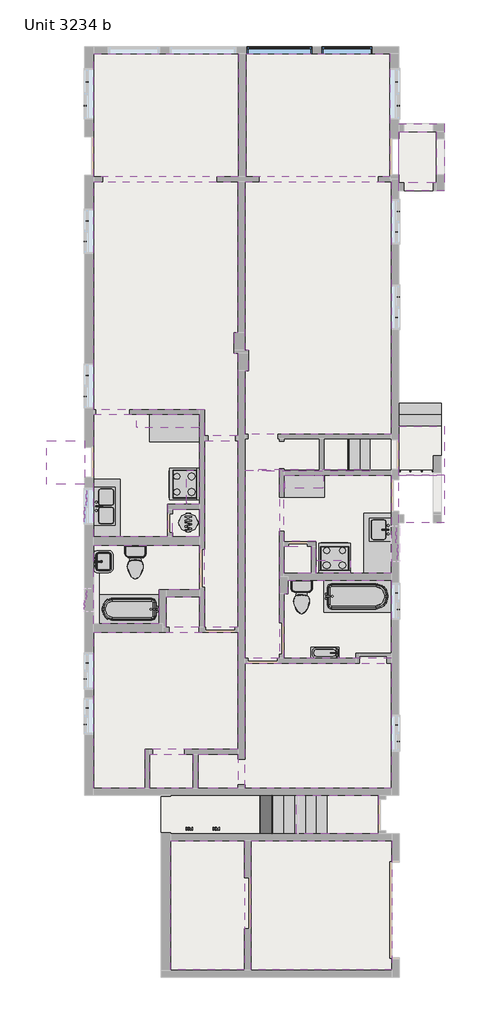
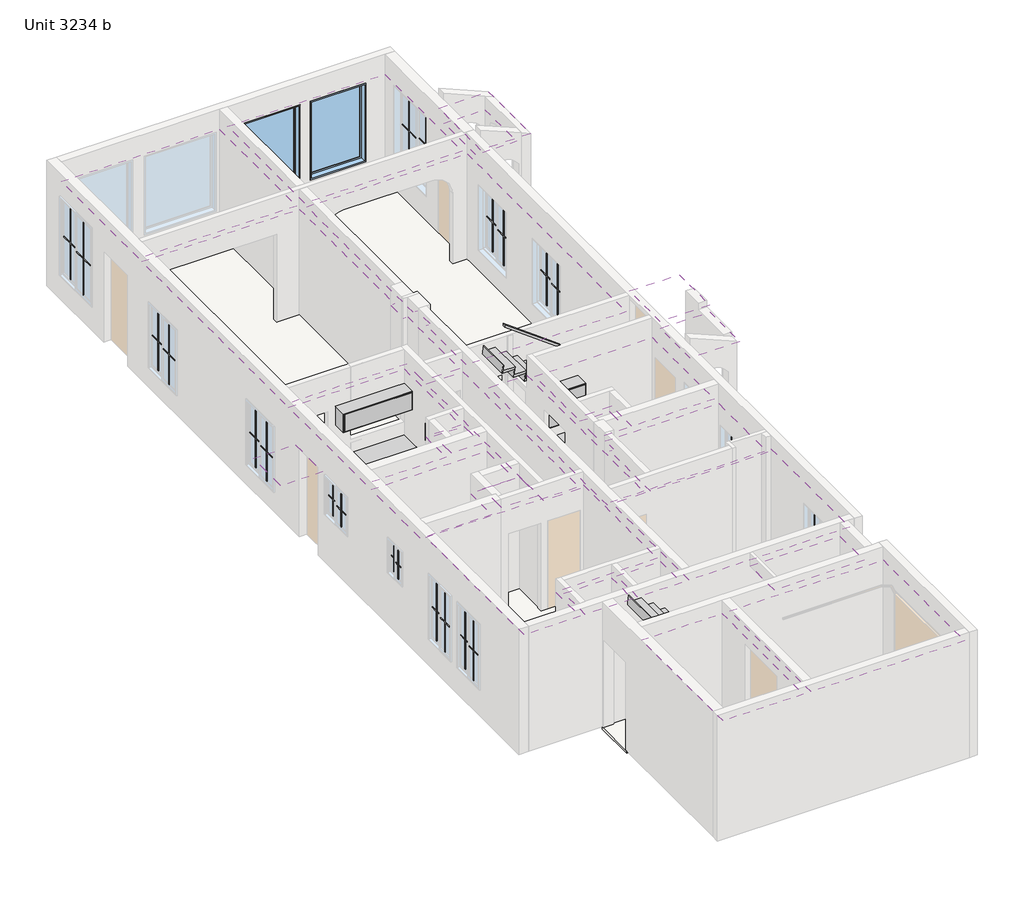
# One storey, part 3 of 3: 36 proxies, 22 coverings, 8 flow terminals, 5 slabs, 4 furniture elements, 4 roofs, 3 stair flights, 2 railings, 2 windows.
"""IFC4 building model written with IfcOpenShell, lengths in millimetres."""

from ifc_helpers import new_model, si_unit, frame, origin, place, context, project, spatial, polyline, outline, extrude, transform, mapped, element, save
from components import countertop_rectangle_shape_base_default_1_c94d556d, countertop_rectangle_shape_base_default_1_c7faa787, countertop_rectangle_shape_base_default_1_c270ed30, countertop_rectangle_shape_base_default_1_6301d843, countertop_rectangle_shape_base_default_1_0d4ae95d, hot_water_heater_default_1_dcdfe45b, hydro_meter_default_1_de04d33e, muntin_pattern_2x2_muntin_pattern_2x2_8981647c, muntin_pattern_2x2_muntin_pattern_2x2_eeb7b067, muntin_pattern_2x2_muntin_pattern_2x2_c44db0e3, muntin_pattern_2x2_muntin_pattern_2x2_644b7d62, muntin_pattern_2x2_muntin_pattern_2x2_b14f4b9c, muntin_pattern_2x2_muntin_pattern_2x2_1228b40f, muntin_pattern_2x2_muntin_pattern_2x2_71baba7b, muntin_pattern_2x2_muntin_pattern_2x2_a1e0f87d, muntin_pattern_2x2_muntin_pattern_2x2_751c9794, stove_default_1_9706c03c, flow_terminal_2d_kitchen_double_sink_default_1_ef919826, flow_terminal_2d_kitchen_single_sink_default_1_ebf750c8, bath_basin_floor_default_1_6d5a7b09, bath_basin_floor_default_1_f7363a9e, bath_bathtub_default_1_c0510252, bath_bathtub_default_1_165bcc3d, toilet_default_1_5cb52bd4, toilet_default_1_183bbd19, furniture_54aba5f5, furniture_4ad73428, furniture_9c7d4743, furniture_249e4f53, railing_900mm_rectangular_stringer_only_1bdd2e87, stair_flight_50mm_tread_25mm_nosing_13mm_riser_cdc1af9a, stair_flight_50mm_tread_25mm_nosing_13mm_riser_e6984ea6, stair_flight_50mm_tread_25mm_nosing_13mm_riser_0e36097c, window_e2ec097b, window_2f6c72c3

model = new_model("IFC4")

# Units and contexts
model_context = context("Model", 3, world=origin())
ifc_project = project(units=[si_unit("LENGTHUNIT", "METRE", prefix="MILLI")], contexts=[model_context])

# Site, building, storey
site = spatial("IfcSite", under=ifc_project)
building = spatial("IfcBuilding", under=site)
storey = spatial("IfcBuildingStorey", under=building, Name="Unit 3234 b", Elevation=0.0)

# Proxies
placement = place(None, origin())
countertop_rectangle_shape_base_default_1_shape = countertop_rectangle_shape_base_default_1_c94d556d(model_context)
element("IfcBuildingElementProxy", 1, Name="Countertop- Rectangle shape base : Default 1", ObjectType="Countertop- Rectangle shape base : Default 1", at=placement, inside=storey, context=model_context, shape_type="MappedRepresentation", body=[
    mapped(countertop_rectangle_shape_base_default_1_shape, transform((-2120.3302402, 3044.1788353, 0.0), x_axis=(1.0, 0.0, 0.0), y_axis=(0.0, 1.0, 0.0), z_axis=(0.0, 0.0, 1.0))),
])
countertop_rectangle_shape_base_default_1_2_shape = countertop_rectangle_shape_base_default_1_c7faa787(model_context)
element("IfcBuildingElementProxy", 2, Name="Countertop- Rectangle shape base : Default 1", ObjectType="Countertop- Rectangle shape base : Default 1", at=placement, inside=storey, context=model_context, shape_type="MappedRepresentation", body=[
    mapped(countertop_rectangle_shape_base_default_1_2_shape, transform((-2612.4552402, 732.7788353, 0.0), x_axis=(0.0, 1.0, 0.0), y_axis=(-1.0, 0.0, 0.0), z_axis=(0.0, 0.0, 1.0))),
])
countertop_rectangle_shape_base_default_1_3_shape = countertop_rectangle_shape_base_default_1_c270ed30(model_context)
element("IfcBuildingElementProxy", 3, Name="Countertop- Rectangle shape base : Default 1", ObjectType="Countertop- Rectangle shape base : Default 1", at=placement, inside=storey, context=model_context, shape_type="MappedRepresentation", body=[
    mapped(countertop_rectangle_shape_base_default_1_3_shape, transform((962.5947598, 1653.5288353, 0.0), x_axis=(1.0, 0.0, 0.0), y_axis=(0.0, 1.0, 0.0), z_axis=(0.0, 0.0, 1.0))),
])
countertop_rectangle_shape_base_default_1_4_shape = countertop_rectangle_shape_base_default_1_6301d843(model_context)
element("IfcBuildingElementProxy", 4, Name="Countertop- Rectangle shape base : Default 1", ObjectType="Countertop- Rectangle shape base : Default 1", at=placement, inside=storey, context=model_context, shape_type="MappedRepresentation", body=[
    mapped(countertop_rectangle_shape_base_default_1_4_shape, transform((1464.2447598, -2343.7961647, 0.0), x_axis=(1.0, 0.0, 0.0), y_axis=(0.0, 1.0, 0.0), z_axis=(0.0, 0.0, 1.0))),
])
countertop_rectangle_shape_base_default_1_5_shape = countertop_rectangle_shape_base_default_1_0d4ae95d(model_context)
element("IfcBuildingElementProxy", 5, Name="Countertop- Rectangle shape base : Default 1", ObjectType="Countertop- Rectangle shape base : Default 1", at=placement, inside=storey, context=model_context, shape_type="MappedRepresentation", body=[
    mapped(countertop_rectangle_shape_base_default_1_5_shape, transform((3880.4197598, -108.5961647, 0.0), x_axis=(0.0, 1.0, 0.0), y_axis=(-1.0, 0.0, 0.0), z_axis=(0.0, 0.0, 1.0))),
])
hot_water_heater_default_1_shape = hot_water_heater_default_1_dcdfe45b(model_context)
element("IfcBuildingElementProxy", 6, Name="Hot Water Heater : Default 1", ObjectType="Hot Water Heater : Default 1", at=placement, inside=storey, context=model_context, shape_type="MappedRepresentation", body=[
    mapped(hot_water_heater_default_1_shape, transform((-1040.8302402, 1155.0538353, 0.0), x_axis=(0.0, 1.0, 0.0), y_axis=(-1.0, 0.0, 0.0), z_axis=(0.0, 0.0, 1.0))),
])
hydro_meter_default_1_shape = hydro_meter_default_1_de04d33e(model_context)
element("IfcBuildingElementProxy", 7, Name="Hydro Meter : Default 1", ObjectType="Hydro Meter : Default 1", at=placement, inside=storey, context=model_context, shape_type="MappedRepresentation", body=[
    mapped(hydro_meter_default_1_shape, transform((-1199.5802402, -6280.7961647, 0.0), x_axis=(1.0, 0.0, 0.0), y_axis=(0.0, 1.0, 0.0), z_axis=(0.0, 0.0, 1.0))),
])
element("IfcBuildingElementProxy", 8, Name="Hydro Meter : Default 1", ObjectType="Hydro Meter : Default 1", at=placement, inside=storey, context=model_context, shape_type="MappedRepresentation", body=[
    mapped(hydro_meter_default_1_shape, transform((-558.2302402, -6280.7961647, 0.0), x_axis=(1.0, 0.0, 0.0), y_axis=(0.0, 1.0, 0.0), z_axis=(0.0, 0.0, 1.0))),
])
muntin_pattern_2x2_muntin_pattern_2x2_shape = muntin_pattern_2x2_muntin_pattern_2x2_8981647c(model_context)
element("IfcBuildingElementProxy", 9, Name="Muntin Pattern_2x2 : Muntin Pattern_2x2", ObjectType="Muntin Pattern_2x2 : Muntin Pattern_2x2", at=placement, inside=storey, context=model_context, shape_type="MappedRepresentation", body=[
    mapped(muntin_pattern_2x2_muntin_pattern_2x2_shape, transform((-3463.3552402, -573.7336647, 1301.75), x_axis=(0.0, 1.0, 0.0), y_axis=(-1.0, 0.0, 0.0), z_axis=(0.0, 0.0, 1.0))),
])
element("IfcBuildingElementProxy", 10, Name="Muntin Pattern_2x2 : Muntin Pattern_2x2", ObjectType="Muntin Pattern_2x2 : Muntin Pattern_2x2", at=placement, inside=storey, context=model_context, shape_type="MappedRepresentation", body=[
    mapped(muntin_pattern_2x2_muntin_pattern_2x2_shape, transform((-3507.8052402, -811.8586647, 1301.75), x_axis=(0.0, 1.0, 0.0), y_axis=(-1.0, 0.0, 0.0), z_axis=(0.0, 0.0, 1.0))),
])
muntin_pattern_2x2_muntin_pattern_2x2_2_shape = muntin_pattern_2x2_muntin_pattern_2x2_eeb7b067(model_context)
element("IfcBuildingElementProxy", 11, Name="Muntin Pattern_2x2 : Muntin Pattern_2x2", ObjectType="Muntin Pattern_2x2 : Muntin Pattern_2x2", at=placement, inside=storey, context=model_context, shape_type="MappedRepresentation", body=[
    mapped(muntin_pattern_2x2_muntin_pattern_2x2_2_shape, transform((-3463.3552402, 1737.6663353, 1200.15), x_axis=(0.0, 1.0, 0.0), y_axis=(-1.0, 0.0, 0.0), z_axis=(0.0, 0.0, 1.0))),
])
element("IfcBuildingElementProxy", 12, Name="Muntin Pattern_2x2 : Muntin Pattern_2x2", ObjectType="Muntin Pattern_2x2 : Muntin Pattern_2x2", at=placement, inside=storey, context=model_context, shape_type="MappedRepresentation", body=[
    mapped(muntin_pattern_2x2_muntin_pattern_2x2_2_shape, transform((-3507.8052402, 1347.1413353, 1200.15), x_axis=(0.0, 1.0, 0.0), y_axis=(-1.0, 0.0, 0.0), z_axis=(0.0, 0.0, 1.0))),
])
muntin_pattern_2x2_muntin_pattern_2x2_3_shape = muntin_pattern_2x2_muntin_pattern_2x2_c44db0e3(model_context)
element("IfcBuildingElementProxy", 13, Name="Muntin Pattern_2x2 : Muntin Pattern_2x2", ObjectType="Muntin Pattern_2x2 : Muntin Pattern_2x2", at=placement, inside=storey, context=model_context, shape_type="MappedRepresentation", body=[
    mapped(muntin_pattern_2x2_muntin_pattern_2x2_3_shape, transform((-3463.3552402, 11681.7663353, 641.35), x_axis=(0.0, 1.0, 0.0), y_axis=(-1.0, 0.0, 0.0), z_axis=(0.0, 0.0, 1.0))),
])
element("IfcBuildingElementProxy", 14, Name="Muntin Pattern_2x2 : Muntin Pattern_2x2", ObjectType="Muntin Pattern_2x2 : Muntin Pattern_2x2", at=placement, inside=storey, context=model_context, shape_type="MappedRepresentation", body=[
    mapped(muntin_pattern_2x2_muntin_pattern_2x2_3_shape, transform((-3507.8052402, 11113.4413353, 641.35), x_axis=(0.0, 1.0, 0.0), y_axis=(-1.0, 0.0, 0.0), z_axis=(0.0, 0.0, 1.0))),
])
muntin_pattern_2x2_muntin_pattern_2x2_4_shape = muntin_pattern_2x2_muntin_pattern_2x2_644b7d62(model_context)
element("IfcBuildingElementProxy", 15, Name="Muntin Pattern_2x2 : Muntin Pattern_2x2", ObjectType="Muntin Pattern_2x2 : Muntin Pattern_2x2", at=placement, inside=storey, context=model_context, shape_type="MappedRepresentation", body=[
    mapped(muntin_pattern_2x2_muntin_pattern_2x2_4_shape, transform((3940.7447598, 11681.7663353, 641.35), x_axis=(0.0, 1.0, 0.0), y_axis=(-1.0, 0.0, 0.0), z_axis=(0.0, 0.0, 1.0))),
])
element("IfcBuildingElementProxy", 16, Name="Muntin Pattern_2x2 : Muntin Pattern_2x2", ObjectType="Muntin Pattern_2x2 : Muntin Pattern_2x2", at=placement, inside=storey, context=model_context, shape_type="MappedRepresentation", body=[
    mapped(muntin_pattern_2x2_muntin_pattern_2x2_4_shape, transform((3985.1947598, 11113.4413353, 641.35), x_axis=(0.0, 1.0, 0.0), y_axis=(-1.0, 0.0, 0.0), z_axis=(0.0, 0.0, 1.0))),
])
muntin_pattern_2x2_muntin_pattern_2x2_5_shape = muntin_pattern_2x2_muntin_pattern_2x2_b14f4b9c(model_context)
element("IfcBuildingElementProxy", 17, Name="Muntin Pattern_2x2 : Muntin Pattern_2x2", ObjectType="Muntin Pattern_2x2 : Muntin Pattern_2x2", at=placement, inside=storey, context=model_context, shape_type="MappedRepresentation", body=[
    mapped(muntin_pattern_2x2_muntin_pattern_2x2_5_shape, transform((3940.7447598, 6052.4913353, 539.75), x_axis=(0.0, -1.0, 0.0), y_axis=(1.0, 0.0, 0.0), z_axis=(0.0, 0.0, 1.0))),
])
element("IfcBuildingElementProxy", 18, Name="Muntin Pattern_2x2 : Muntin Pattern_2x2", ObjectType="Muntin Pattern_2x2 : Muntin Pattern_2x2", at=placement, inside=storey, context=model_context, shape_type="MappedRepresentation", body=[
    mapped(muntin_pattern_2x2_muntin_pattern_2x2_5_shape, transform((3985.1947598, 6544.6163353, 539.75), x_axis=(0.0, -1.0, 0.0), y_axis=(1.0, 0.0, 0.0), z_axis=(0.0, 0.0, 1.0))),
])
element("IfcBuildingElementProxy", 19, Name="Muntin Pattern_2x2 : Muntin Pattern_2x2", ObjectType="Muntin Pattern_2x2 : Muntin Pattern_2x2", at=placement, inside=storey, context=model_context, shape_type="MappedRepresentation", body=[
    mapped(muntin_pattern_2x2_muntin_pattern_2x2_5_shape, transform((3940.7447598, 8097.1913353, 539.75), x_axis=(0.0, -1.0, 0.0), y_axis=(1.0, 0.0, 0.0), z_axis=(0.0, 0.0, 1.0))),
])
element("IfcBuildingElementProxy", 20, Name="Muntin Pattern_2x2 : Muntin Pattern_2x2", ObjectType="Muntin Pattern_2x2 : Muntin Pattern_2x2", at=placement, inside=storey, context=model_context, shape_type="MappedRepresentation", body=[
    mapped(muntin_pattern_2x2_muntin_pattern_2x2_5_shape, transform((3985.1947598, 8589.3163353, 539.75), x_axis=(0.0, -1.0, 0.0), y_axis=(1.0, 0.0, 0.0), z_axis=(0.0, 0.0, 1.0))),
])
element("IfcBuildingElementProxy", 21, Name="Muntin Pattern_2x2 : Muntin Pattern_2x2", ObjectType="Muntin Pattern_2x2 : Muntin Pattern_2x2", at=placement, inside=storey, context=model_context, shape_type="MappedRepresentation", body=[
    mapped(muntin_pattern_2x2_muntin_pattern_2x2_5_shape, transform((-3463.3552402, 8360.7163353, 539.75), x_axis=(0.0, 1.0, 0.0), y_axis=(-1.0, 0.0, 0.0), z_axis=(0.0, 0.0, 1.0))),
])
element("IfcBuildingElementProxy", 22, Name="Muntin Pattern_2x2 : Muntin Pattern_2x2", ObjectType="Muntin Pattern_2x2 : Muntin Pattern_2x2", at=placement, inside=storey, context=model_context, shape_type="MappedRepresentation", body=[
    mapped(muntin_pattern_2x2_muntin_pattern_2x2_5_shape, transform((-3507.8052402, 7868.5913353, 539.75), x_axis=(0.0, 1.0, 0.0), y_axis=(-1.0, 0.0, 0.0), z_axis=(0.0, 0.0, 1.0))),
])
element("IfcBuildingElementProxy", 23, Name="Muntin Pattern_2x2 : Muntin Pattern_2x2", ObjectType="Muntin Pattern_2x2 : Muntin Pattern_2x2", at=placement, inside=storey, context=model_context, shape_type="MappedRepresentation", body=[
    mapped(muntin_pattern_2x2_muntin_pattern_2x2_5_shape, transform((-3463.3552402, 4665.0163353, 539.75), x_axis=(0.0, 1.0, 0.0), y_axis=(-1.0, 0.0, 0.0), z_axis=(0.0, 0.0, 1.0))),
])
element("IfcBuildingElementProxy", 24, Name="Muntin Pattern_2x2 : Muntin Pattern_2x2", ObjectType="Muntin Pattern_2x2 : Muntin Pattern_2x2", at=placement, inside=storey, context=model_context, shape_type="MappedRepresentation", body=[
    mapped(muntin_pattern_2x2_muntin_pattern_2x2_5_shape, transform((-3507.8052402, 4172.8913353, 539.75), x_axis=(0.0, 1.0, 0.0), y_axis=(-1.0, 0.0, 0.0), z_axis=(0.0, 0.0, 1.0))),
])
muntin_pattern_2x2_muntin_pattern_2x2_6_shape = muntin_pattern_2x2_muntin_pattern_2x2_1228b40f(model_context)
element("IfcBuildingElementProxy", 25, Name="Muntin Pattern_2x2 : Muntin Pattern_2x2", ObjectType="Muntin Pattern_2x2 : Muntin Pattern_2x2", at=placement, inside=storey, context=model_context, shape_type="MappedRepresentation", body=[
    mapped(muntin_pattern_2x2_muntin_pattern_2x2_6_shape, transform((-3463.3552402, -2192.9836647, 692.15), x_axis=(0.0, 1.0, 0.0), y_axis=(-1.0, 0.0, 0.0), z_axis=(0.0, 0.0, 1.0))),
])
element("IfcBuildingElementProxy", 26, Name="Muntin Pattern_2x2 : Muntin Pattern_2x2", ObjectType="Muntin Pattern_2x2 : Muntin Pattern_2x2", at=placement, inside=storey, context=model_context, shape_type="MappedRepresentation", body=[
    mapped(muntin_pattern_2x2_muntin_pattern_2x2_6_shape, transform((-3507.8052402, -2583.5086647, 692.15), x_axis=(0.0, 1.0, 0.0), y_axis=(-1.0, 0.0, 0.0), z_axis=(0.0, 0.0, 1.0))),
])
element("IfcBuildingElementProxy", 27, Name="Muntin Pattern_2x2 : Muntin Pattern_2x2", ObjectType="Muntin Pattern_2x2 : Muntin Pattern_2x2", at=placement, inside=storey, context=model_context, shape_type="MappedRepresentation", body=[
    mapped(muntin_pattern_2x2_muntin_pattern_2x2_6_shape, transform((-3463.3552402, -3272.4836647, 692.15), x_axis=(0.0, 1.0, 0.0), y_axis=(-1.0, 0.0, 0.0), z_axis=(0.0, 0.0, 1.0))),
])
element("IfcBuildingElementProxy", 28, Name="Muntin Pattern_2x2 : Muntin Pattern_2x2", ObjectType="Muntin Pattern_2x2 : Muntin Pattern_2x2", at=placement, inside=storey, context=model_context, shape_type="MappedRepresentation", body=[
    mapped(muntin_pattern_2x2_muntin_pattern_2x2_6_shape, transform((-3507.8052402, -3663.0086647, 692.15), x_axis=(0.0, 1.0, 0.0), y_axis=(-1.0, 0.0, 0.0), z_axis=(0.0, 0.0, 1.0))),
])
muntin_pattern_2x2_muntin_pattern_2x2_7_shape = muntin_pattern_2x2_muntin_pattern_2x2_71baba7b(model_context)
element("IfcBuildingElementProxy", 29, Name="Muntin Pattern_2x2 : Muntin Pattern_2x2", ObjectType="Muntin Pattern_2x2 : Muntin Pattern_2x2", at=placement, inside=storey, context=model_context, shape_type="MappedRepresentation", body=[
    mapped(muntin_pattern_2x2_muntin_pattern_2x2_7_shape, transform((3940.7447598, 842.3163353, 1301.75), x_axis=(0.0, 1.0, 0.0), y_axis=(-1.0, 0.0, 0.0), z_axis=(0.0, 0.0, 1.0))),
])
element("IfcBuildingElementProxy", 30, Name="Muntin Pattern_2x2 : Muntin Pattern_2x2", ObjectType="Muntin Pattern_2x2 : Muntin Pattern_2x2", at=placement, inside=storey, context=model_context, shape_type="MappedRepresentation", body=[
    mapped(muntin_pattern_2x2_muntin_pattern_2x2_7_shape, transform((3985.1947598, 451.7913353, 1301.75), x_axis=(0.0, 1.0, 0.0), y_axis=(-1.0, 0.0, 0.0), z_axis=(0.0, 0.0, 1.0))),
])
muntin_pattern_2x2_muntin_pattern_2x2_8_shape = muntin_pattern_2x2_muntin_pattern_2x2_a1e0f87d(model_context)
element("IfcBuildingElementProxy", 31, Name="Muntin Pattern_2x2 : Muntin Pattern_2x2", ObjectType="Muntin Pattern_2x2 : Muntin Pattern_2x2", at=placement, inside=storey, context=model_context, shape_type="MappedRepresentation", body=[
    mapped(muntin_pattern_2x2_muntin_pattern_2x2_8_shape, transform((3940.7447598, -529.2836647, 996.95), x_axis=(0.0, 1.0, 0.0), y_axis=(-1.0, 0.0, 0.0), z_axis=(0.0, 0.0, 1.0))),
])
element("IfcBuildingElementProxy", 32, Name="Muntin Pattern_2x2 : Muntin Pattern_2x2", ObjectType="Muntin Pattern_2x2 : Muntin Pattern_2x2", at=placement, inside=storey, context=model_context, shape_type="MappedRepresentation", body=[
    mapped(muntin_pattern_2x2_muntin_pattern_2x2_8_shape, transform((3985.1947598, -919.8086647, 996.95), x_axis=(0.0, 1.0, 0.0), y_axis=(-1.0, 0.0, 0.0), z_axis=(0.0, 0.0, 1.0))),
])
muntin_pattern_2x2_muntin_pattern_2x2_9_shape = muntin_pattern_2x2_muntin_pattern_2x2_751c9794(model_context)
element("IfcBuildingElementProxy", 33, Name="Muntin Pattern_2x2 : Muntin Pattern_2x2", ObjectType="Muntin Pattern_2x2 : Muntin Pattern_2x2", at=placement, inside=storey, context=model_context, shape_type="MappedRepresentation", body=[
    mapped(muntin_pattern_2x2_muntin_pattern_2x2_9_shape, transform((3940.7447598, -3678.8836647, 692.15), x_axis=(0.0, 1.0, 0.0), y_axis=(-1.0, 0.0, 0.0), z_axis=(0.0, 0.0, 1.0))),
])
element("IfcBuildingElementProxy", 34, Name="Muntin Pattern_2x2 : Muntin Pattern_2x2", ObjectType="Muntin Pattern_2x2 : Muntin Pattern_2x2", at=placement, inside=storey, context=model_context, shape_type="MappedRepresentation", body=[
    mapped(muntin_pattern_2x2_muntin_pattern_2x2_9_shape, transform((3985.1947598, -4069.4086647, 692.15), x_axis=(0.0, 1.0, 0.0), y_axis=(-1.0, 0.0, 0.0), z_axis=(0.0, 0.0, 1.0))),
])
stove_default_1_shape = stove_default_1_9706c03c(model_context)
element("IfcBuildingElementProxy", 35, Name="Stove : Default 1", ObjectType="Stove : Default 1", at=placement, inside=storey, context=model_context, shape_type="MappedRepresentation", body=[
    mapped(stove_default_1_shape, transform((-787.7802402, 2074.3038353, 0.0), x_axis=(0.0, -1.0, 0.0), y_axis=(1.0, 0.0, 0.0), z_axis=(0.0, 0.0, 1.0))),
])
element("IfcBuildingElementProxy", 36, Name="Stove : Default 1", ObjectType="Stove : Default 1", at=placement, inside=storey, context=model_context, shape_type="MappedRepresentation", body=[
    mapped(stove_default_1_shape, transform((2457.1697598, -37.8461647, 0.0), x_axis=(-1.0, 0.0, 0.0), y_axis=(0.0, -1.0, 0.0), z_axis=(0.0, 0.0, 1.0))),
])

# Coverings
element("IfcCovering", 37, ObjectType="1/2\" Ceiling", at=placement, inside=storey, context=model_context, shape_type="SweptSolid", body=[
    extrude(outline(polyline([(159.3197598, 12350.1038353), (159.3197598, 9416.4038353), (-3301.4302402, 9416.4038353), (-3301.4302402, 12350.1038353), (159.3197598, 12350.1038353)])), frame((0.0, 0.0, 2438.4), z_axis=(0.0, 0.0, 1.0), x_axis=(1.0, 0.0, 0.0)), (0.0, 0.0, 1.0), 12.7),
])
element("IfcCovering", 38, ObjectType="1/2\" Ceiling", at=placement, inside=storey, context=model_context, shape_type="SweptSolid", body=[
    extrude(outline(polyline([(337.1197598, 12350.1038353), (3778.8197598, 12350.1038353), (3778.8197598, 9416.4038353), (337.1197598, 9416.4038353), (337.1197598, 12350.1038353)])), frame((0.0, 0.0, 2438.4), z_axis=(0.0, 0.0, 1.0), x_axis=(1.0, 0.0, 0.0)), (0.0, 0.0, 1.0), 12.7),
])
element("IfcCovering", 39, ObjectType="1/2\" Ceiling", at=placement, inside=storey, context=model_context, shape_type="SweptSolid", body=[
    extrude(outline(polyline([(337.1197598, 12350.1038353), (3778.8197598, 12350.1038353), (3778.8197598, 9416.4038353), (337.1197598, 9416.4038353), (337.1197598, 12350.1038353)])), frame((0.0, 0.0, 2438.4), z_axis=(0.0, 0.0, 1.0), x_axis=(1.0, 0.0, 0.0)), (0.0, 0.0, 1.0), 12.7),
])
element("IfcCovering", 40, ObjectType="1/2\" Ceiling", at=placement, inside=storey, context=model_context, shape_type="SweptSolid", body=[
    extrude(outline(polyline([(146.6197598, 9302.1038353), (146.6197598, 5688.9538353), (57.7197598, 5688.9538353), (57.7197598, 5200.0038353), (146.6197598, 5200.0038353), (146.6197598, 3225.1538353), (-653.4802402, 3225.1538353), (-653.4802402, 3853.8038353), (-3301.4302402, 3853.8038353), (-3301.4302402, 9302.1038353), (146.6197598, 9302.1038353)])), frame((0.0, 0.0, 2438.4), z_axis=(0.0, 0.0, 1.0), x_axis=(1.0, 0.0, 0.0)), (0.0, 0.0, 1.0), 12.7),
])
element("IfcCovering", 41, ObjectType="1/2\" Ceiling", at=placement, inside=storey, context=model_context, shape_type="SweptSolid", body=[
    extrude(outline(polyline([(3816.9197598, 9302.1038353), (3816.9197598, 3269.6038353), (311.7197598, 3269.6038353), (311.7197598, 4780.9038353), (400.6197598, 4780.9038353), (400.6197598, 5269.8538353), (311.7197598, 5269.8538353), (311.7197598, 9302.1038353), (3816.9197598, 9302.1038353)])), frame((0.0, 0.0, 2438.4), z_axis=(0.0, 0.0, 1.0), x_axis=(1.0, 0.0, 0.0)), (0.0, 0.0, 1.0), 12.7),
])
element("IfcCovering", 42, ObjectType="1/2\" Ceiling", at=placement, inside=storey, context=model_context, shape_type="SweptSolid", body=[
    extrude(outline(polyline([(-653.4802402, -1346.8461647), (-653.4802402, 3110.8538353), (146.6197598, 3110.8538353), (146.6197598, -1346.8461647), (-653.4802402, -1346.8461647)])), frame((0.0, 0.0, 2438.4), z_axis=(0.0, 0.0, 1.0), x_axis=(1.0, 0.0, 0.0)), (0.0, 0.0, 1.0), 12.7),
])
element("IfcCovering", 43, ObjectType="1/2\" Ceiling", at=placement, inside=storey, context=model_context, shape_type="SweptSolid", body=[
    extrude(outline(polyline([(1137.2197598, 2406.0038353), (1137.2197598, -2089.7961647), (311.7197598, -2089.7961647), (311.7197598, 2406.0038353), (1137.2197598, 2406.0038353)])), frame((0.0, 0.0, 2438.4), z_axis=(0.0, 0.0, 1.0), x_axis=(1.0, 0.0, 0.0)), (0.0, 0.0, 1.0), 12.7),
])
element("IfcCovering", 44, ObjectType="1/2\" Ceiling", at=placement, inside=storey, context=model_context, shape_type="SweptSolid", body=[
    extrude(outline(polyline([(-767.7802402, -616.5961647), (-767.7802402, -1346.8461647), (-1574.2302402, -1346.8461647), (-1574.2302402, -616.5961647), (-767.7802402, -616.5961647)])), frame((0.0, 0.0, 2590.8), z_axis=(0.0, 0.0, 1.0), x_axis=(1.0, 0.0, 0.0)), (0.0, 0.0, 1.0), 12.7),
])
element("IfcCovering", 45, ObjectType="1/2\" Ceiling", at=placement, inside=storey, context=model_context, shape_type="SweptSolid", body=[
    extrude(outline(polyline([(-3301.4302402, -1461.1461647), (146.6197598, -1461.1461647), (146.6197598, -4261.4961647), (-2075.8802402, -4261.4961647), (-2075.8802402, -5188.5961647), (-3301.4302402, -5188.5961647), (-3301.4302402, -1461.1461647)])), frame((0.0, 0.0, 2590.8), z_axis=(0.0, 0.0, 1.0), x_axis=(1.0, 0.0, 0.0)), (0.0, 0.0, 1.0), 12.7),
])
element("IfcCovering", 46, ObjectType="1/2\" Ceiling", at=placement, inside=storey, context=model_context, shape_type="SweptSolid", body=[
    extrude(outline(polyline([(-926.5302402, -5188.5961647), (-1961.5802402, -5188.5961647), (-1961.5802402, -4375.7961647), (-926.5302402, -4375.7961647), (-926.5302402, -5188.5961647)])), frame((0.0, 0.0, 2590.8), z_axis=(0.0, 0.0, 1.0), x_axis=(1.0, 0.0, 0.0)), (0.0, 0.0, 1.0), 12.7),
])
element("IfcCovering", 47, ObjectType="1/2\" Ceiling", at=placement, inside=storey, context=model_context, shape_type="SweptSolid", body=[
    extrude(outline(polyline([(146.6197598, -5188.5961647), (-812.2302402, -5188.5961647), (-812.2302402, -4375.7961647), (146.6197598, -4375.7961647), (146.6197598, -5188.5961647)])), frame((0.0, 0.0, 2590.8), z_axis=(0.0, 0.0, 1.0), x_axis=(1.0, 0.0, 0.0)), (0.0, 0.0, 1.0), 12.7),
])
element("IfcCovering", 48, ObjectType="1/2\" Ceiling", at=placement, inside=storey, context=model_context, shape_type="SweptSolid", body=[
    extrude(outline(polyline([(3816.9197598, -5188.5961647), (311.7197598, -5188.5961647), (311.7197598, -2204.0961647), (3816.9197598, -2204.0961647), (3816.9197598, -5188.5961647)])), frame((0.0, 0.0, 2590.8), z_axis=(0.0, 0.0, 1.0), x_axis=(1.0, 0.0, 0.0)), (0.0, 0.0, 1.0), 12.7),
])
element("IfcCovering", 49, ObjectType="1/2\" Ceiling", at=placement, inside=storey, context=model_context, shape_type="SweptSolid", body=[
    extrude(outline(polyline([(-3301.4302402, 3739.5038353), (-767.7802402, 3739.5038353), (-767.7802402, 1593.2038353), (-1536.1302402, 1593.2038353), (-1536.1302402, 812.1538353), (-3301.4302402, 812.1538353), (-3301.4302402, 3739.5038353)])), frame((0.0, 0.0, 2438.4), z_axis=(0.0, 0.0, 1.0), x_axis=(1.0, 0.0, 0.0)), (0.0, 0.0, 1.0), 12.7),
])
element("IfcCovering", 50, ObjectType="1/2\" Ceiling", at=placement, inside=storey, context=model_context, shape_type="SweptSolid", body=[
    extrude(outline(polyline([(-1421.8302402, 812.1538353), (-1421.8302402, 1478.9038353), (-767.7802402, 1478.9038353), (-767.7802402, 812.1538353), (-1421.8302402, 812.1538353)])), frame((0.0, 0.0, 2489.2), z_axis=(0.0, 0.0, 1.0), x_axis=(1.0, 0.0, 0.0)), (0.0, 0.0, 1.0), 12.7),
])
element("IfcCovering", 51, ObjectType="1/2\" Ceiling", at=placement, inside=storey, context=model_context, shape_type="SweptSolid", body=[
    extrude(outline(polyline([(-3301.4302402, 608.9538353), (-767.7802402, 608.9538353), (-767.7802402, -451.4961647), (-1739.3302402, -451.4961647), (-1739.3302402, -1257.9461647), (-3301.4302402, -1257.9461647), (-3301.4302402, 608.9538353)])), frame((0.0, 0.0, 2438.4), z_axis=(0.0, 0.0, 1.0), x_axis=(1.0, 0.0, 0.0)), (0.0, 0.0, 1.0), 12.7),
])
element("IfcCovering", 52, ObjectType="1/2\" Ceiling", at=placement, inside=storey, context=model_context, shape_type="SweptSolid", body=[
    extrude(outline(polyline([(1543.6197598, -6280.7961647), (1543.6197598, -5353.6961647), (3505.7697598, -5353.6961647), (3505.7697598, -6280.7961647), (1543.6197598, -6280.7961647)])), frame((0.0, 0.0, 2590.8), z_axis=(0.0, 0.0, 1.0), x_axis=(1.0, 0.0, 0.0)), (0.0, 0.0, 1.0), 12.7),
])
element("IfcCovering", 53, ObjectType="1/2\" Ceiling", at=placement, inside=storey, context=model_context, shape_type="SweptSolid", body=[
    extrude(outline(polyline([(3823.2697598, -6445.8961647), (3823.2697598, -9531.9961647), (464.1197598, -9531.9961647), (464.1197598, -6445.8961647), (3823.2697598, -6445.8961647)])), frame((0.0, 0.0, 2590.8), z_axis=(0.0, 0.0, 1.0), x_axis=(1.0, 0.0, 0.0)), (0.0, 0.0, 1.0), 12.7),
])
element("IfcCovering", 54, ObjectType="1/2\" Ceiling", at=placement, inside=storey, context=model_context, shape_type="SweptSolid", body=[
    extrude(outline(polyline([(299.0197598, -6445.8961647), (299.0197598, -9531.9961647), (-1459.9302402, -9531.9961647), (-1459.9302402, -6445.8961647), (299.0197598, -6445.8961647)])), frame((0.0, 0.0, 2590.8), z_axis=(0.0, 0.0, 1.0), x_axis=(1.0, 0.0, 0.0)), (0.0, 0.0, 1.0), 12.7),
])
element("IfcCovering", 55, ObjectType="1/2\" Ceiling", at=placement, inside=storey, context=model_context, shape_type="SweptSolid", body=[
    extrude(outline(polyline([(3994.7197598, 10489.5538353), (4890.0697598, 10489.5538353), (4890.0697598, 9276.7038353), (3994.7197598, 9276.7038353), (3994.7197598, 10489.5538353)])), frame((0.0, 0.0, 2362.2), z_axis=(0.0, 0.0, 1.0), x_axis=(1.0, 0.0, 0.0)), (0.0, 0.0, 1.0), 12.7),
])
element("IfcCovering", 56, ObjectType="1/2\" Ceiling", at=placement, inside=storey, context=model_context, shape_type="SweptSolid", body=[
    extrude(outline(polyline([(3816.9197598, 2291.7038353), (3816.9197598, -57.7961647), (2013.5197598, -57.7961647), (2013.5197598, 704.2038353), (1251.5197598, 704.2038353), (1251.5197598, 2291.7038353), (3816.9197598, 2291.7038353)])), frame((0.0, 0.0, 2438.4), z_axis=(0.0, 0.0, 1.0), x_axis=(1.0, 0.0, 0.0)), (0.0, 0.0, 1.0), 12.7),
])
element("IfcCovering", 57, ObjectType="1/2\" Ceiling", at=placement, inside=storey, context=model_context, shape_type="SweptSolid", body=[
    extrude(outline(polyline([(1340.4197598, -222.8961647), (3816.9197598, -222.8961647), (3816.9197598, -2089.7961647), (1251.5197598, -2089.7961647), (1251.5197598, -546.7461647), (1340.4197598, -546.7461647), (1340.4197598, -222.8961647)])), frame((0.0, 0.0, 2438.4), z_axis=(0.0, 0.0, 1.0), x_axis=(1.0, 0.0, 0.0)), (0.0, 0.0, 1.0), 12.7),
])
element("IfcCovering", 58, ObjectType="1/2\" Ceiling", at=placement, inside=storey, context=model_context, shape_type="SweptSolid", body=[
    extrude(outline(polyline([(1251.5197598, -57.7961647), (1251.5197598, 589.9038353), (1899.2197598, 589.9038353), (1899.2197598, -57.7961647), (1251.5197598, -57.7961647)])), frame((0.0, 0.0, 2438.4), z_axis=(0.0, 0.0, 1.0), x_axis=(1.0, 0.0, 0.0)), (0.0, 0.0, 1.0), 12.7),
])

# Flow terminals
flow_terminal_2d_kitchen_double_sink_default_1_shape = flow_terminal_2d_kitchen_double_sink_default_1_ef919826(model_context)
element("IfcFlowTerminal", 59, ObjectType="2D Kitchen-Double Sink : Default 1", at=placement, inside=storey, context=model_context, shape_type="MappedRepresentation", body=[
    mapped(flow_terminal_2d_kitchen_double_sink_default_1_shape, transform((-3041.7098391, 1529.8395947, 152.4), x_axis=(0.0, 1.0, 0.0), y_axis=(-1.0, 0.0, 0.0), z_axis=(0.0, 0.0, 1.0))),
])
flow_terminal_2d_kitchen_single_sink_default_1_shape = flow_terminal_2d_kitchen_single_sink_default_1_ebf750c8(model_context)
element("IfcFlowTerminal", 60, ObjectType="2D Kitchen-Single Sink : Default 1", at=placement, inside=storey, context=model_context, shape_type="MappedRepresentation", body=[
    mapped(flow_terminal_2d_kitchen_single_sink_default_1_shape, transform((3543.6243587, 1003.4430758, 152.4), x_axis=(0.0, -1.0, 0.0), y_axis=(1.0, 0.0, 0.0), z_axis=(0.0, 0.0, 1.0))),
])
bath_basin_floor_default_1_shape = bath_basin_floor_default_1_6d5a7b09(model_context)
element("IfcFlowTerminal", 61, ObjectType="Bath-Basin Floor : Default 1", at=placement, inside=storey, context=model_context, shape_type="MappedRepresentation", body=[
    mapped(bath_basin_floor_default_1_shape, transform((-3121.2848391, 207.6765242, 0.0), x_axis=(0.0, 1.0, 0.0), y_axis=(-1.0, 0.0, 0.0), z_axis=(0.0, 0.0, 1.0))),
])
bath_basin_floor_default_1_2_shape = bath_basin_floor_default_1_f7363a9e(model_context)
element("IfcFlowTerminal", 62, ObjectType="Bath-Basin Floor : Default 1", at=placement, inside=storey, context=model_context, shape_type="MappedRepresentation", body=[
    mapped(bath_basin_floor_default_1_2_shape, transform((2354.0743587, -1942.3444242, 0.0), x_axis=(0.0, -1.0, 0.0), y_axis=(1.0, 0.0, 0.0), z_axis=(0.0, 0.0, 1.0))),
])
bath_bathtub_default_1_shape = bath_bathtub_default_1_c0510252(model_context)
element("IfcFlowTerminal", 63, ObjectType="Bath-Bathtub : Default 1", at=placement, inside=storey, context=model_context, shape_type="MappedRepresentation", body=[
    mapped(bath_bathtub_default_1_shape, transform((3315.4364983, -140.3461647, 0.0), x_axis=(1.0, 0.0, 0.0), y_axis=(0.0, 1.0, 0.0), z_axis=(0.0, 0.0, 1.0))),
])
bath_bathtub_default_1_2_shape = bath_bathtub_default_1_165bcc3d(model_context)
element("IfcFlowTerminal", 64, ObjectType="Bath-Bathtub : Default 1", at=placement, inside=storey, context=model_context, shape_type="MappedRepresentation", body=[
    mapped(bath_bathtub_default_1_2_shape, transform((-2849.9332089, -1359.5461647, 0.0), x_axis=(-1.0, 0.0, 0.0), y_axis=(0.0, -1.0, 0.0), z_axis=(0.0, 0.0, 1.0))),
])
toilet_default_1_shape = toilet_default_1_5cb52bd4(model_context)
toilet_default_1_2_shape = toilet_default_1_183bbd19(model_context)
element("IfcFlowTerminal", 65, ObjectType="Toilet : Default 1", at=placement, inside=storey, context=model_context, shape_type="MappedRepresentation", body=[
    mapped(toilet_default_1_shape, transform((-2307.3802402, 114.5578079, 0.0), x_axis=(1.0, 0.0, 0.0), y_axis=(0.0, 1.0, 0.0), z_axis=(0.0, 0.0, 1.0))),
    mapped(toilet_default_1_2_shape, transform((-2307.3802402, 114.5578079, 0.0), x_axis=(1.0, 0.0, 0.0), y_axis=(0.0, 1.0, 0.0), z_axis=(0.0, 0.0, 1.0))),
])
element("IfcFlowTerminal", 66, ObjectType="Toilet : Default 1", at=placement, inside=storey, context=model_context, shape_type="MappedRepresentation", body=[
    mapped(toilet_default_1_shape, transform((1669.3197598, -717.2421921, 0.0), x_axis=(1.0, 0.0, 0.0), y_axis=(0.0, 1.0, 0.0), z_axis=(0.0, 0.0, 1.0))),
    mapped(toilet_default_1_2_shape, transform((1669.3197598, -717.2421921, 0.0), x_axis=(1.0, 0.0, 0.0), y_axis=(0.0, 1.0, 0.0), z_axis=(0.0, 0.0, 1.0))),
])

# Furniture
furniture_shape = furniture_54aba5f5(model_context)
element("IfcFurniture", 67, ObjectType="Upper Cabinet-Single Door-Wall : 24\"", at=placement, inside=storey, context=model_context, shape_type="MappedRepresentation", body=[
    mapped(furniture_shape, transform((1527.4420336, 2348.8538353, 0.0), x_axis=(-1.0, 0.0, 0.0), y_axis=(0.0, -1.0, 0.0), z_axis=(0.0, 0.0, 1.0))),
])
furniture_2_shape = furniture_4ad73428(model_context)
element("IfcFurniture", 68, ObjectType="Upper Cabinet-Single Door-Wall : 24\"", at=placement, inside=storey, context=model_context, shape_type="MappedRepresentation", body=[
    mapped(furniture_2_shape, transform((2578.5903945, -140.3461647, 0.0), x_axis=(1.0, 0.0, 0.0), y_axis=(0.0, 1.0, 0.0), z_axis=(0.0, 0.0, 1.0))),
])
furniture_3_shape = furniture_9c7d4743(model_context)
element("IfcFurniture", 69, ObjectType="Upper Cabinet-Single Door-Wall : 24\"", at=placement, inside=storey, context=model_context, shape_type="MappedRepresentation", body=[
    mapped(furniture_3_shape, transform((-2015.3846495, 3796.6538353, -25.4), x_axis=(-1.0, 0.0, 0.0), y_axis=(0.0, -1.0, 0.0), z_axis=(0.0, 0.0, 1.0))),
])
furniture_4_shape = furniture_249e4f53(model_context)
element("IfcFurniture", 70, ObjectType="Upper Cabinet-Single Door-Wall : 24\"", at=placement, inside=storey, context=model_context, shape_type="MappedRepresentation", body=[
    mapped(furniture_4_shape, transform((-710.6302402, 2147.6326725, 0.0), x_axis=(0.0, 1.0, 0.0), y_axis=(-1.0, 0.0, 0.0), z_axis=(0.0, 0.0, 1.0))),
])

# Railings
element("IfcRailing", 71, ObjectType="900mm Rectangular", at=placement, inside=storey, context=model_context, shape_type="SweptSolid", body=[
    extrude(outline(polyline([(4820.2197598, 2402.4288353), (4820.2197598, 2352.4288353), (4007.4197598, 2352.4288353), (4007.4197598, 2402.4288353), (4820.2197598, 2402.4288353)])), frame((0.0, 0.0, 1612.0), z_axis=(0.0, 0.0, 1.0), x_axis=(1.0, 0.0, 0.0)), (0.0, 0.0, 1.0), 50.0),
    extrude(outline(polyline([(4282.7197598, 2389.9288353), (4282.7197598, 2364.9288353), (4257.7197598, 2364.9288353), (4257.7197598, 2389.9288353), (4282.7197598, 2389.9288353)])), frame((0.0, 0.0, 762.0), z_axis=(0.0, 0.0, 1.0), x_axis=(1.0, 0.0, 0.0)), (0.0, 0.0, 1.0), 850.0),
    extrude(outline(polyline([(4557.7197598, 2389.9288353), (4557.7197598, 2364.9288353), (4532.7197598, 2364.9288353), (4532.7197598, 2389.9288353), (4557.7197598, 2389.9288353)])), frame((0.0, 0.0, 762.0), z_axis=(0.0, 0.0, 1.0), x_axis=(1.0, 0.0, 0.0)), (0.0, 0.0, 1.0), 850.0),
    extrude(outline(polyline([(4032.4197598, 2389.9288353), (4032.4197598, 2364.9288353), (4007.4197598, 2364.9288353), (4007.4197598, 2389.9288353), (4032.4197598, 2389.9288353)])), frame((0.0, 0.0, 762.0), z_axis=(0.0, 0.0, 1.0), x_axis=(1.0, 0.0, 0.0)), (0.0, 0.0, 1.0), 850.0),
    extrude(outline(polyline([(4820.2197598, 2389.9288353), (4820.2197598, 2364.9288353), (4795.2197598, 2364.9288353), (4795.2197598, 2389.9288353), (4820.2197598, 2389.9288353)])), frame((0.0, 0.0, 762.0), z_axis=(0.0, 0.0, 1.0), x_axis=(1.0, 0.0, 0.0)), (0.0, 0.0, 1.0), 850.0),
])
railing_900mm_rectangular_stringer_only_shape = railing_900mm_rectangular_stringer_only_1bdd2e87(model_context)
element("IfcRailing", 72, ObjectType="900mm Rectangular Stringer Only", at=placement, inside=storey, context=model_context, shape_type="MappedRepresentation", body=[
    mapped(railing_900mm_rectangular_stringer_only_shape, transform((0.0, 0.0, 0.0), x_axis=(1.0, 0.0, 0.0), y_axis=(0.0, 1.0, 0.0), z_axis=(0.0, 0.0, 1.0))),
])

# Roofs
element("IfcRoof", 73, ObjectType="Planitar Roof - 5\"", at=placement, inside=storey, context=model_context, shape_type="SweptSolid", body=[
    extrude(outline(polyline([(2728.5985301, 5080.5697598), (3185.7985301, 3994.7197598), (3048.0, 3994.7197598), (2590.8, 5080.5697598), (2728.5985301, 5080.5697598)])), frame((0.0, 9086.2038353, 0.0), z_axis=(0.0, 1.0, 0.0), x_axis=(0.0, 0.0, 1.0)), (0.0, 0.0, 1.0), 1593.85),
])
element("IfcRoof", 74, ObjectType="Planitar Roof - 5\"", at=placement, inside=storey, context=model_context, shape_type="SweptSolid", body=[
    extrude(outline(polyline([(2728.5985301, 5080.5697598), (3185.7985301, 3994.7197598), (3048.0, 3994.7197598), (2590.8, 5080.5697598), (2728.5985301, 5080.5697598)])), frame((0.0, 1155.0538353, 0.0), z_axis=(0.0, 1.0, 0.0), x_axis=(0.0, 0.0, 1.0)), (0.0, 0.0, 1.0), 1136.65),
])
element("IfcRoof", 75, ObjectType="Planitar Roof - 5\"", at=placement, inside=storey, context=model_context, shape_type="SweptSolid", body=[
    extrude(outline(polyline([(2880.9985301, 5080.5697598), (3338.1985301, 3994.7197598), (3200.4, 3994.7197598), (2743.2, 5080.5697598), (2880.9985301, 5080.5697598)])), frame((0.0, 2291.7038353, 0.0), z_axis=(0.0, 1.0, 0.0), x_axis=(0.0, 0.0, 1.0)), (0.0, 0.0, 1.0), 1168.4),
])
element("IfcRoof", 76, ObjectType="Planitar Roof - 5\"", at=placement, inside=storey, context=model_context, shape_type="SweptSolid", body=[
    extrude(outline(polyline([(2706.5760545, -3517.3302402), (2178.6469684, -4431.7302402), (2032.0, -4431.7302402), (2559.9290861, -3517.3302402), (2706.5760545, -3517.3302402)])), frame((0.0, 2069.4538353, 0.0), z_axis=(0.0, 1.0, 0.0), x_axis=(0.0, 0.0, 1.0)), (0.0, 0.0, 1.0), 1041.4),
])

# Slabs
element("IfcSlab", 77, ObjectType="Ledge - 2\"", at=placement, inside=storey, context=model_context, shape_type="SweptSolid", body=[
    extrude(outline(polyline([(3778.8197598, 12350.1038353), (3778.8197598, 9359.2538353), (3816.9197598, 9359.2538353), (3816.9197598, -5188.5961647), (3505.7697598, -5188.5961647), (3505.7697598, -6445.8961647), (3823.2697598, -6445.8961647), (3823.2697598, -9531.9961647), (-1459.9302402, -9531.9961647), (-1459.9302402, -6363.3461647), (-1459.9302402, -6280.7961647), (2254.8197598, -6280.7961647), (2254.8197598, -5188.5961647), (-3301.4302402, -5188.5961647), (-3301.4302402, 12350.1038353), (3778.8197598, 12350.1038353)])), frame((0.0, 0.0, -50.8), z_axis=(0.0, 0.0, 1.0), x_axis=(1.0, 0.0, 0.0)), (0.0, 0.0, 1.0), 50.8),
])
element("IfcSlab", 78, ObjectType="Ledge - 2\"", at=placement, inside=storey, context=model_context, shape_type="SweptSolid", body=[
    extrude(outline(polyline([(5080.5697598, 10680.0538353), (5080.5697598, 9086.2038353), (3994.7197598, 9086.2038353), (3994.7197598, 10680.0538353), (5080.5697598, 10680.0538353)])), frame((0.0, 0.0, -50.8), z_axis=(0.0, 0.0, 1.0), x_axis=(1.0, 0.0, 0.0)), (0.0, 0.0, 1.0), 50.8),
])
element("IfcSlab", 79, ObjectType="Ledge - 2\"", at=placement, inside=storey, context=model_context, shape_type="SweptSolid", body=[
    extrude(outline(polyline([(2207.5882314, 3155.3038353), (3816.9197598, 3155.3038353), (3816.9197598, 2406.0038353), (2207.5882314, 2406.0038353), (2207.5882314, 3155.3038353)])), frame((0.0, 0.0, 711.2), z_axis=(0.0, 0.0, 1.0), x_axis=(1.0, 0.0, 0.0)), (0.0, 0.0, 1.0), 50.8),
])
element("IfcSlab", 80, ObjectType="Ledge - 2\"", at=placement, inside=storey, context=model_context, shape_type="SweptSolid", body=[
    extrude(outline(polyline([(3994.7197598, 2406.0038353), (3994.7197598, 3460.1038353), (5010.7197598, 3460.1038353), (5010.7197598, 2545.7038353), (4820.2197598, 2545.7038353), (4820.2197598, 2406.0038353), (3994.7197598, 2406.0038353)])), frame((0.0, 0.0, 711.2), z_axis=(0.0, 0.0, 1.0), x_axis=(1.0, 0.0, 0.0)), (0.0, 0.0, 1.0), 50.8),
])
element("IfcSlab", 81, ObjectType="Ledge - 2\"", at=placement, inside=storey, context=model_context, shape_type="SweptSolid", body=[
    extrude(outline(polyline([(2274.261797, -5353.6961647), (2274.261797, -6280.7961647), (-1688.5302402, -6280.7961647), (-1688.5302402, -5353.6961647), (2274.261797, -5353.6961647)])), frame((0.0, 0.0, -50.8), z_axis=(0.0, 0.0, 1.0), x_axis=(1.0, 0.0, 0.0)), (0.0, 0.0, 1.0), 50.8),
])

# Stair flights
stair_flight_50mm_tread_25mm_nosing_13mm_riser_shape = stair_flight_50mm_tread_25mm_nosing_13mm_riser_cdc1af9a(model_context)
element("IfcStairFlight", 82, ObjectType="50mm Tread 25mm Nosing 13mm Riser", at=placement, inside=storey, context=model_context, shape_type="MappedRepresentation", body=[
    mapped(stair_flight_50mm_tread_25mm_nosing_13mm_riser_shape, transform((0.0, 0.0, 0.0), x_axis=(1.0, 0.0, 0.0), y_axis=(0.0, 1.0, 0.0), z_axis=(0.0, 0.0, 1.0))),
])
stair_flight_50mm_tread_25mm_nosing_13mm_riser_2_shape = stair_flight_50mm_tread_25mm_nosing_13mm_riser_e6984ea6(model_context)
element("IfcStairFlight", 83, ObjectType="50mm Tread 25mm Nosing 13mm Riser", at=placement, inside=storey, context=model_context, shape_type="MappedRepresentation", body=[
    mapped(stair_flight_50mm_tread_25mm_nosing_13mm_riser_2_shape, transform((0.0, 0.0, 0.0), x_axis=(1.0, 0.0, 0.0), y_axis=(0.0, 1.0, 0.0), z_axis=(0.0, 0.0, 1.0))),
])
stair_flight_50mm_tread_25mm_nosing_13mm_riser_3_shape = stair_flight_50mm_tread_25mm_nosing_13mm_riser_0e36097c(model_context)
element("IfcStairFlight", 84, ObjectType="50mm Tread 25mm Nosing 13mm Riser", at=placement, inside=storey, context=model_context, shape_type="MappedRepresentation", body=[
    mapped(stair_flight_50mm_tread_25mm_nosing_13mm_riser_3_shape, transform((0.0, 0.0, 0.0), x_axis=(1.0, 0.0, 0.0), y_axis=(0.0, 1.0, 0.0), z_axis=(0.0, 0.0, 1.0))),
])

# Windows
window_shape = window_e2ec097b(model_context)
element("IfcWindow", 85, ObjectType="Planitar-Fixed : 4' - 5' 5\"", at=placement, inside=storey, context=model_context, shape_type="MappedRepresentation", body=[
    mapped(window_shape, transform((2756.4697598, 12426.0038353, -355.6), x_axis=(-1.0, 0.0, 0.0), y_axis=(0.0, -1.0, 0.0), z_axis=(0.0, 0.0, 1.0))),
])
window_2_shape = window_2f6c72c3(model_context)
element("IfcWindow", 86, ObjectType="Planitar-Fixed : 5'2\" x 5'6\"", at=placement, inside=storey, context=model_context, shape_type="MappedRepresentation", body=[
    mapped(window_2_shape, transform((1137.2197598, 12426.0038353, -355.6), x_axis=(-1.0, 0.0, 0.0), y_axis=(0.0, -1.0, 0.0), z_axis=(0.0, 0.0, 1.0))),
])

save(model, "model.ifc")
